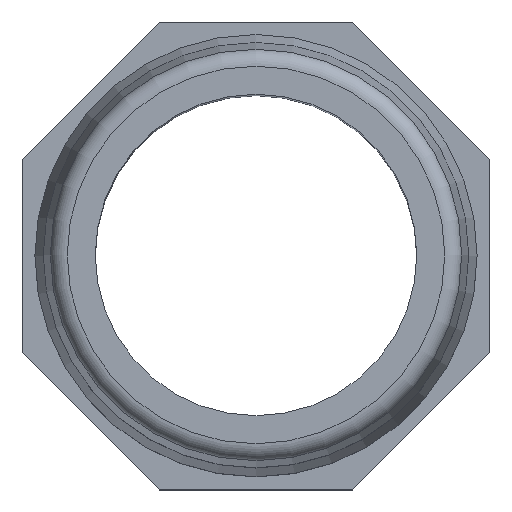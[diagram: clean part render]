
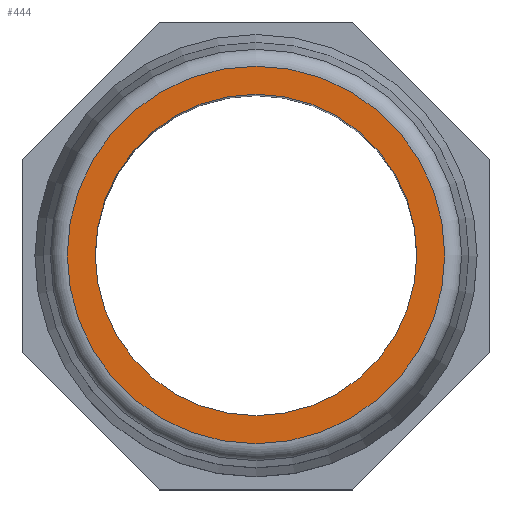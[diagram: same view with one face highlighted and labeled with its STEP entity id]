
A CAD part, top view. The second image highlights one B-rep face of the part: STEP entity #444.
In plain terms, the highlighted planar face has unit normal (0, 0, 1).
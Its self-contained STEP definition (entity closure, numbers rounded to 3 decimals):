
#88=PLANE('',#481);
#113=FACE_BOUND('',#165,.T.);
#130=FACE_OUTER_BOUND('',#164,.T.);
#164=EDGE_LOOP('',(#331));
#165=EDGE_LOOP('',(#332));
#210=CIRCLE('',#478,22.194);
#212=CIRCLE('',#482,18.9);
#229=VERTEX_POINT('',#647);
#231=VERTEX_POINT('',#653);
#271=EDGE_CURVE('',#229,#229,#210,.T.);
#273=EDGE_CURVE('',#231,#231,#212,.T.);
#331=ORIENTED_EDGE('',*,*,#271,.F.);
#332=ORIENTED_EDGE('',*,*,#273,.F.);
#444=ADVANCED_FACE('',(#130,#113),#88,.T.);
#478=AXIS2_PLACEMENT_3D('',#648,#528,#529);
#481=AXIS2_PLACEMENT_3D('',#652,#534,#535);
#482=AXIS2_PLACEMENT_3D('',#654,#536,#537);
#528=DIRECTION('center_axis',(0.,0.,-1.));
#529=DIRECTION('ref_axis',(-1.,0.,0.));
#534=DIRECTION('center_axis',(0.,0.,1.));
#535=DIRECTION('ref_axis',(1.,0.,0.));
#536=DIRECTION('center_axis',(0.,0.,1.));
#537=DIRECTION('ref_axis',(1.,0.,0.));
#647=CARTESIAN_POINT('',(22.194,0.,99.));
#648=CARTESIAN_POINT('Origin',(0.,0.,99.));
#652=CARTESIAN_POINT('Origin',(18.9,0.,99.));
#653=CARTESIAN_POINT('',(18.9,0.,99.));
#654=CARTESIAN_POINT('Origin',(0.,0.,99.));
